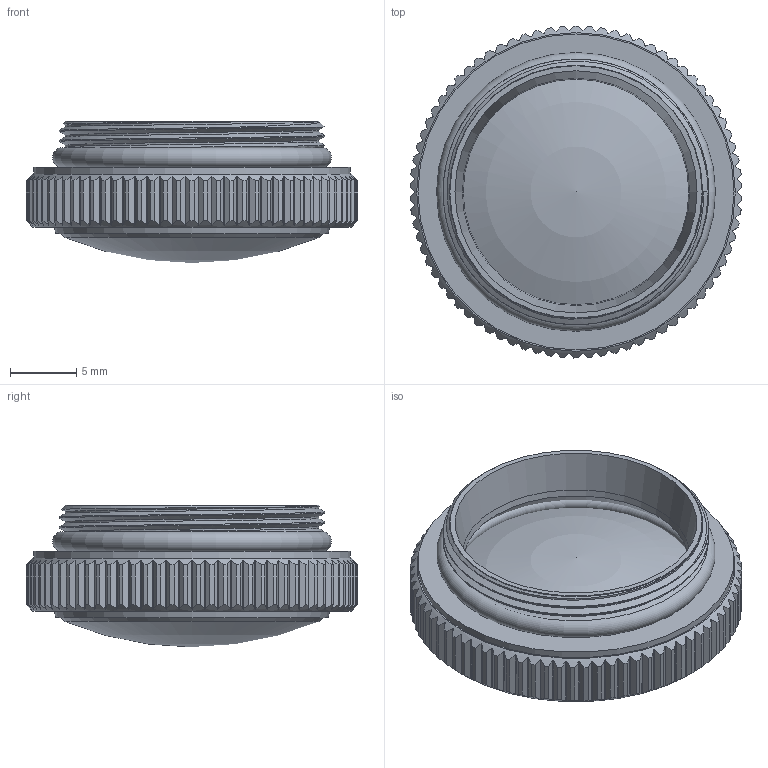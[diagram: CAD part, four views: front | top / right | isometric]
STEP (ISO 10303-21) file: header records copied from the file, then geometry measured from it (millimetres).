
FILE_DESCRIPTION(/* description */ (''),/* implementation_level */ '2;1');
FILE_NAME(/* name */ 'GOT-5039_Gr.Obiettivo 18mm.stp',/* time_stamp */ '2021-03-03T14:49:05+01:00',/* author */ (''),/* organization */ (''),/* preprocessor_version */ 'ST-DEVELOPER v16.7',/* originating_system */ 'SIEMENS PLM Software NX 12.0',/* authorisation */ '');
FILE_SCHEMA (('AUTOMOTIVE_DESIGN { 1 0 10303 214 3 1 1 1 }'));
Length unit declared in the file: millimetre
Products named in the file (1): MBra3F20A007e50d
Bounding box: 24.99 x 25 x 10.69 mm (x, y, z)
Volume: 2849.8 mm3; surface area: 3164 mm2
Topology: 4 solids, 4 shells, 349 faces, 1012 edges, 670 vertices
Faces by surface type: plane 164, cylinder 163, cone 14, torus 3, bspline 3, sphere 2
Full cylindrical faces by diameter (mm): 18.8 x2, 20 x2, 23.8 x1
Entity records: 15557 total; most frequent: CARTESIAN_POINT 8334, ORIENTED_EDGE 1956, EDGE_CURVE 978, B_SPLINE_CURVE_WITH_KNOTS 949, DIRECTION 744, VERTEX_POINT 663, EDGE_LOOP 371, AXIS2_PLACEMENT_3D 371
